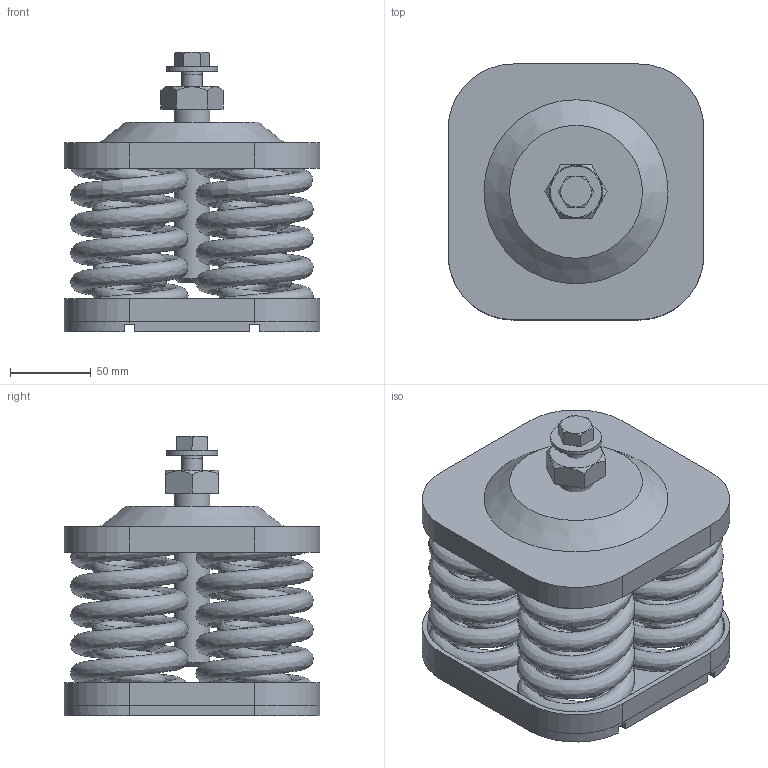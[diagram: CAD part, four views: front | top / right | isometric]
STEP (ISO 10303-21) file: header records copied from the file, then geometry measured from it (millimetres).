
FILE_DESCRIPTION(/* description */ (''),/* implementation_level */ '2;1');
FILE_NAME(/* name */ 'C:\2014_Work\SLF4.stp',/* time_stamp */ '2014-05-07T11:33:38-04:00',/* author */ ('mleuck'),/* organization */ (''),/* preprocessor_version */ 'ST-DEVELOPER v15.2',/* originating_system */ 'Autodesk Inventor 2014',/* authorisation */ '');
FILE_SCHEMA (('AUTOMOTIVE_DESIGN { 1 0 10303 214 3 1 1 }'));
Length unit declared in the file: inch
Products named in the file (10): C-1840-5 SLF-4 D-6900-2 SLRS-4  TOP PLATE; C-1840-5 SLF-4 D-6900-2 SLRS-4 BOTTOM CASTING; C-1840-5 SLF-4 FLATBACK; A-19773-1 SLF-B ADJUSTMENT BOLT 4250 x 08750; ANSI_ASME B18.2.1 - 1_2-13 UNC - 1.25(2); ANSI B18.22.1 - 1_2 - Regular - Type B; SLF-4 WOS ASSEMBLY PER A-16400-1; SPRING C-1350 FH (YELLOW); SPRING Z-750 FH (RED); SLF-4-8400
Bounding box: 158.75 x 158.75 x 173.71 mm (x, y, z)
Volume: 1203334 mm3; surface area: 489941.5 mm2
Topology: 14 solids, 14 shells, 947 faces, 2247 edges, 1473 vertices
Faces by surface type: plane 811, cylinder 83, torus 25, bspline 16, cone 12
Full cylindrical faces by diameter (mm): 10.592 x1, 12.7 x1, 13.487 x1, 19.05 x1, 19.177 x1, 22.225 x1, 28.575 x8, 31.75 x1
Entity records: 30188 total; most frequent: CARTESIAN_POINT 8597, ORIENTED_EDGE 4316, DIRECTION 4230, EDGE_CURVE 2158, LINE 1894, VECTOR 1894, VERTEX_POINT 1424, AXIS2_PLACEMENT_3D 1168
